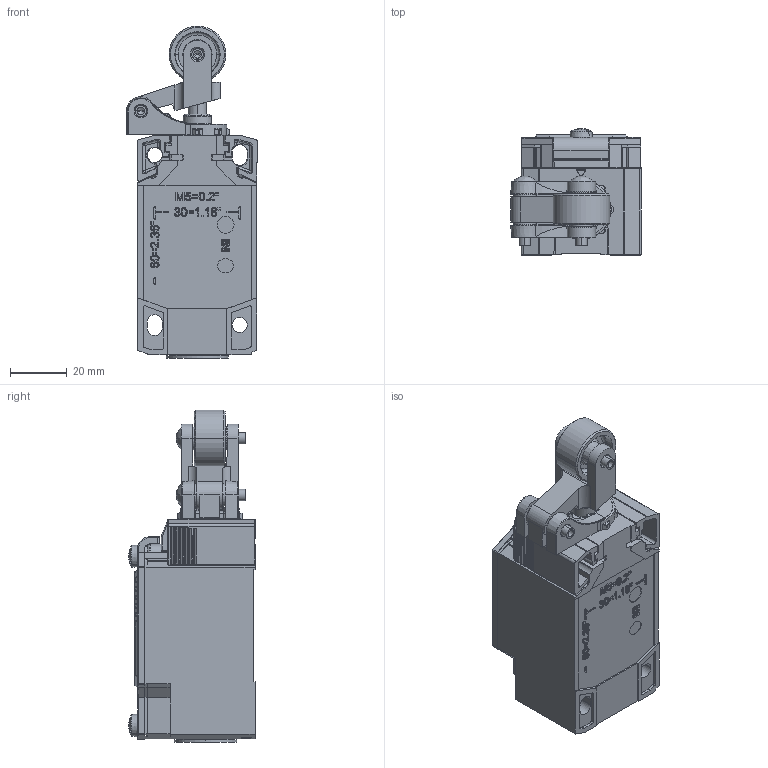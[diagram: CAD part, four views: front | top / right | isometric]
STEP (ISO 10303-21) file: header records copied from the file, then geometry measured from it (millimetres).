
FILE_DESCRIPTION((''),'2;1');
FILE_NAME('0000310224_ASM','2019-10-29T14:38:30',('Yvonne.Storm'),(''),'CREO PARAMETRIC BY PTC INC, 2018190','CREO PARAMETRIC BY PTC INC, 2018190','');
FILE_SCHEMA(('AUTOMOTIVE_DESIGN { 1 0 10303 214 1 1 1 1 }'));
Products named in the file (3): MN78_GEHUSE_O_EINR0; IN73_MN78_HK_EINR; 0000310224_ASM
Assembly tree (2 placements, depth 2):
  0000310224_ASM
    MN78_GEHUSE_O_EINR0
    IN73_MN78_HK_EINR
Bounding box: 46.14 x 44.53 x 117.21 mm (x, y, z)
Volume: 123640 mm3; surface area: 35754.5 mm2
Topology: 5 solids, 5 shells, 3082 faces, 7672 edges, 4685 vertices
Faces by surface type: plane 1107, cylinder 717, bspline 482, extrusion 263, torus 201, cone 169, sphere 143
Entity records: 167621 total; most frequent: CARTESIAN_POINT 51637, ORIENTED_EDGE 15316, DIRECTION 12657, PRESENTATION_STYLE_ASSIGNMENT 10967, STYLED_ITEM 7941, CURVE_STYLE 7921, EDGE_CURVE 7658, VERTEX_POINT 4685
